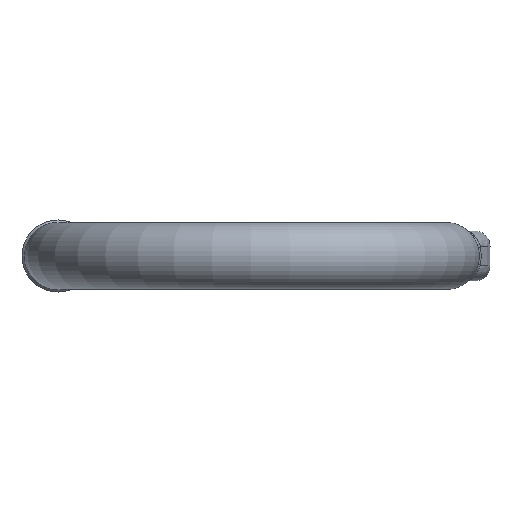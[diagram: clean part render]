
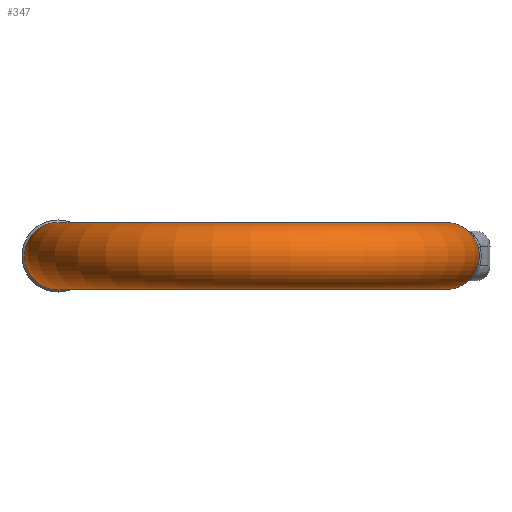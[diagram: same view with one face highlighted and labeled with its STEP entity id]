
A CAD part, front view. The second image highlights one B-rep face of the part: STEP entity #347.
In plain terms, the highlighted toroidal (fillet/blend) face has major radius 66.5 mm and minor radius 11.5 mm.
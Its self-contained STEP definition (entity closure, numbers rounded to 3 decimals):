
#98=TOROIDAL_SURFACE('',#1382,66.5,11.5);
#274=B_SPLINE_CURVE_WITH_KNOTS('',3,(#1994,#1995,#1996,#1997,#1998,#1999),
.UNSPECIFIED.,.F.,.F.,(4,2,4),(0.,0.5,1.),.UNSPECIFIED.);
#275=B_SPLINE_CURVE_WITH_KNOTS('',3,(#2000,#2001,#2002,#2003,#2004,#2005),
.UNSPECIFIED.,.F.,.F.,(4,2,4),(0.,0.5,1.),.UNSPECIFIED.);
#347=ADVANCED_FACE('',(#456,#457),#98,.T.);
#456=FACE_BOUND('',#472,.T.);
#457=FACE_BOUND('',#473,.T.);
#472=EDGE_LOOP('',(#606,#607,#608,#609));
#473=EDGE_LOOP('',(#610));
#606=ORIENTED_EDGE('',*,*,#1092,.T.);
#607=ORIENTED_EDGE('',*,*,#1128,.T.);
#608=ORIENTED_EDGE('',*,*,#1126,.T.);
#609=ORIENTED_EDGE('',*,*,#1129,.T.);
#610=ORIENTED_EDGE('',*,*,#1087,.F.);
#969=VERTEX_POINT('',#1768);
#974=VERTEX_POINT('',#1788);
#975=VERTEX_POINT('',#1790);
#1008=VERTEX_POINT('',#1989);
#1009=VERTEX_POINT('',#1991);
#1087=EDGE_CURVE('',#969,#969,#1289,.T.);
#1092=EDGE_CURVE('',#975,#974,#1290,.T.);
#1126=EDGE_CURVE('',#1009,#1008,#1293,.T.);
#1128=EDGE_CURVE('',#974,#1009,#274,.T.);
#1129=EDGE_CURVE('',#1008,#975,#275,.T.);
#1289=CIRCLE('',#1364,11.5);
#1290=CIRCLE('',#1367,11.5);
#1293=CIRCLE('',#1379,11.5);
#1364=AXIS2_PLACEMENT_3D('',#1767,#1492,#1493);
#1367=AXIS2_PLACEMENT_3D('',#1789,#1499,#1500);
#1379=AXIS2_PLACEMENT_3D('',#1990,#1530,#1531);
#1382=AXIS2_PLACEMENT_3D('',#2006,#1536,#1537);
#1492=DIRECTION('',(0.,1.,0.));
#1493=DIRECTION('',(-1.,0.,0.));
#1499=DIRECTION('',(0.,-1.,0.));
#1500=DIRECTION('',(1.,0.,0.));
#1530=DIRECTION('',(0.,-1.,0.));
#1531=DIRECTION('',(1.,0.,0.));
#1536=DIRECTION('',(0.,0.,1.));
#1537=DIRECTION('',(1.,0.,0.));
#1767=CARTESIAN_POINT('',(-66.5,-25.,0.));
#1768=CARTESIAN_POINT('',(-78.,-25.,0.));
#1788=CARTESIAN_POINT('',(72.09,-25.,10.05));
#1789=CARTESIAN_POINT('',(66.5,-25.,0.));
#1790=CARTESIAN_POINT('',(72.09,-25.,-10.05));
#1989=CARTESIAN_POINT('',(60.91,-25.,-10.05));
#1990=CARTESIAN_POINT('',(66.5,-25.,0.));
#1991=CARTESIAN_POINT('',(60.91,-25.,10.05));
#1994=CARTESIAN_POINT('',(72.09,-25.,10.05));
#1995=CARTESIAN_POINT('',(70.409,-25.466,10.985));
#1996=CARTESIAN_POINT('',(68.466,-25.716,11.498));
#1997=CARTESIAN_POINT('',(64.552,-25.712,11.502));
#1998=CARTESIAN_POINT('',(62.594,-25.455,10.987));
#1999=CARTESIAN_POINT('',(60.91,-25.,10.05));
#2000=CARTESIAN_POINT('',(60.91,-25.,-10.05));
#2001=CARTESIAN_POINT('',(62.593,-25.455,-10.986));
#2002=CARTESIAN_POINT('',(64.534,-25.71,-11.499));
#2003=CARTESIAN_POINT('',(68.449,-25.717,-11.501));
#2004=CARTESIAN_POINT('',(70.408,-25.466,-10.985));
#2005=CARTESIAN_POINT('',(72.09,-25.,-10.05));
#2006=CARTESIAN_POINT('',(0.,-25.,0.));
